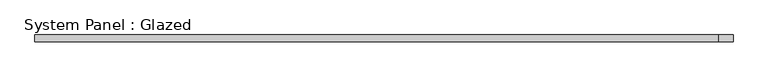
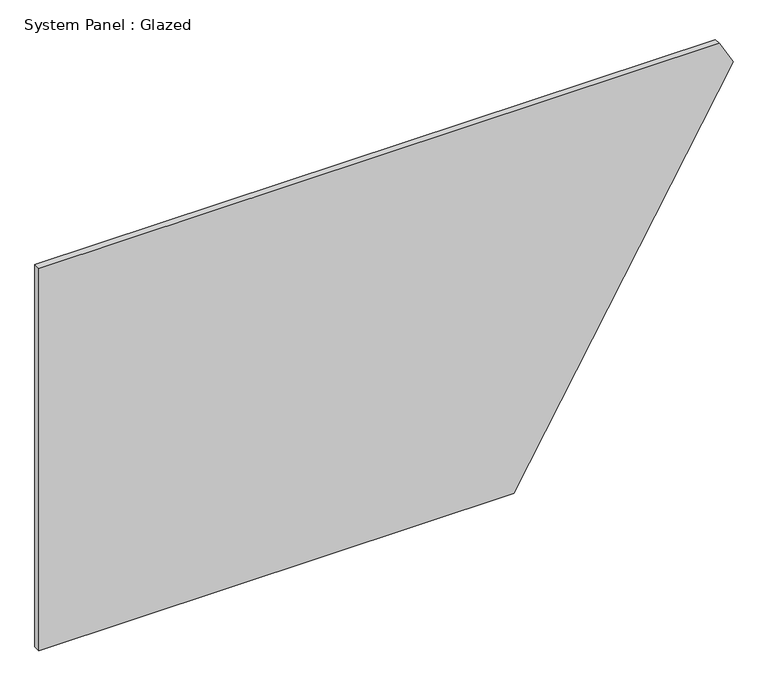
"""IFC4 building model written with IfcOpenShell, lengths in millimetres: plate geometry, System Panel : Glazed."""

from ifc_helpers import new_model, si_unit, frame, origin, place, context, project, spatial, polyline, outline, extrude, source, transform, mapped, element, save


def system_panel_glazed_0122edaa(model_context):
    return source(origin(), model_context, "Body", "SweptSolid", [
        extrude(outline(polyline([(0.0, -1308.4626303), (0.0, 481.6403663), (1432.09817, 1308.4626303), (1524.0, 1255.403084), (1524.0, -1308.4626303), (0.0, -1308.4626303)])), frame((0.0, 19.05, 0.0), z_axis=(0.0, 1.0, 0.0), x_axis=(0.0, 0.0, 1.0)), (0.0, 0.0, 1.0), 25.4),
    ])


if __name__ == "__main__":
    model = new_model("IFC4")
    model_context = context("Model", 3, world=origin())
    ifc_project = project(units=[si_unit("LENGTHUNIT", "METRE", prefix="MILLI")], contexts=[model_context])
    site = spatial("IfcSite", under=ifc_project)
    building = spatial("IfcBuilding", under=site)
    placement = place(None, origin())
    system_panel_glazed_shape = system_panel_glazed_0122edaa(model_context)
    element("IfcPlate", 1, ObjectType="System Panel : Glazed", at=placement, inside=building, context=model_context, shape_type="MappedRepresentation", body=[
        mapped(system_panel_glazed_shape, transform((0.0, 0.0, 0.0), x_axis=(1.0, 0.0, 0.0), y_axis=(0.0, 1.0, 0.0), z_axis=(0.0, 0.0, 1.0))),
    ])
    save(model, "model.ifc")
